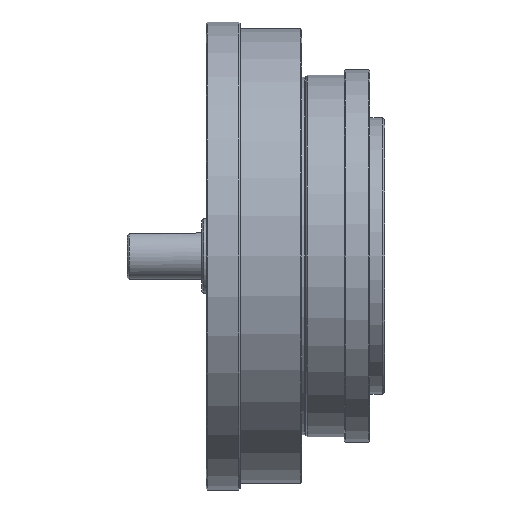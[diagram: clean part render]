
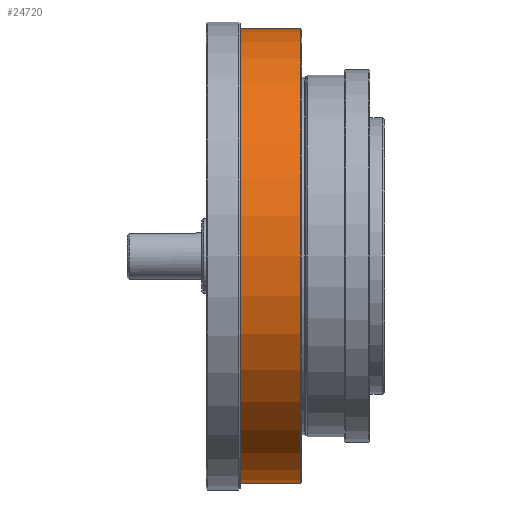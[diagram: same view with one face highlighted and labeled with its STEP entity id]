
A CAD part, front view. The second image highlights one B-rep face of the part: STEP entity #24720.
In plain terms, the highlighted cylindrical face has radius 107 mm (diameter 214 mm), a full revolution.
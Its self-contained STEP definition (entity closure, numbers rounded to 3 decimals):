
#260 = EDGE_LOOP ( 'NONE', ( #13271 ) ) ;
#718 = CARTESIAN_POINT ( 'NONE',  ( 0., 0., 0. ) ) ;
#3429 = CARTESIAN_POINT ( 'NONE',  ( 44.5, 0., 0. ) ) ;
#4087 = AXIS2_PLACEMENT_3D ( 'NONE', #21780, #7345, #24231 ) ;
#5372 = CARTESIAN_POINT ( 'NONE',  ( 44.5, 107., 0. ) ) ;
#5844 = DIRECTION ( 'NONE',  ( 0., 1., 0. ) ) ;
#6212 = VERTEX_POINT ( 'NONE', #12528 ) ;
#6808 = EDGE_LOOP ( 'NONE', ( #22982 ) ) ;
#7345 = DIRECTION ( 'NONE',  ( 1., 0., 0. ) ) ;
#8317 = AXIS2_PLACEMENT_3D ( 'NONE', #3429, #20265, #5844 ) ;
#10004 = FACE_OUTER_BOUND ( 'NONE', #260, .T. ) ;
#10116 = EDGE_CURVE ( 'NONE', #6212, #6212, #10878, .T. ) ;
#10307 = DIRECTION ( 'NONE',  ( -1., 0., 0. ) ) ;
#10366 = EDGE_CURVE ( 'NONE', #23957, #23957, #25635, .T. ) ;
#10878 = CIRCLE ( 'NONE', #4087, 107. ) ;
#12528 = CARTESIAN_POINT ( 'NONE',  ( 11.5, -107., 0. ) ) ;
#13271 = ORIENTED_EDGE ( 'NONE', *, *, #10366, .T. ) ;
#17168 = FACE_OUTER_BOUND ( 'NONE', #6808, .T. ) ;
#17356 = DIRECTION ( 'NONE',  ( 0., -1., 0. ) ) ;
#20265 = DIRECTION ( 'NONE',  ( -1., 0., 0. ) ) ;
#21780 = CARTESIAN_POINT ( 'NONE',  ( 11.5, 0., 0. ) ) ;
#22982 = ORIENTED_EDGE ( 'NONE', *, *, #10116, .T. ) ;
#23957 = VERTEX_POINT ( 'NONE', #5372 ) ;
#24231 = DIRECTION ( 'NONE',  ( 0., -1., 0. ) ) ;
#24720 = ADVANCED_FACE ( 'NONE', ( #17168, #10004 ), #28534, .T. ) ;
#25635 = CIRCLE ( 'NONE', #8317, 107. ) ;
#28534 = CYLINDRICAL_SURFACE ( 'NONE', #30905, 107. ) ;
#30905 = AXIS2_PLACEMENT_3D ( 'NONE', #718, #10307, #17356 ) ;
